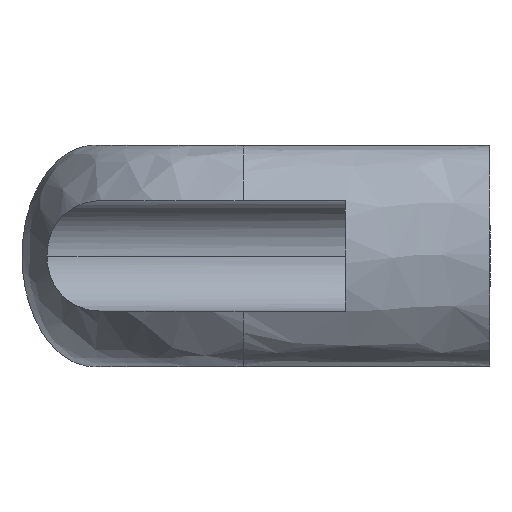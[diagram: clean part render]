
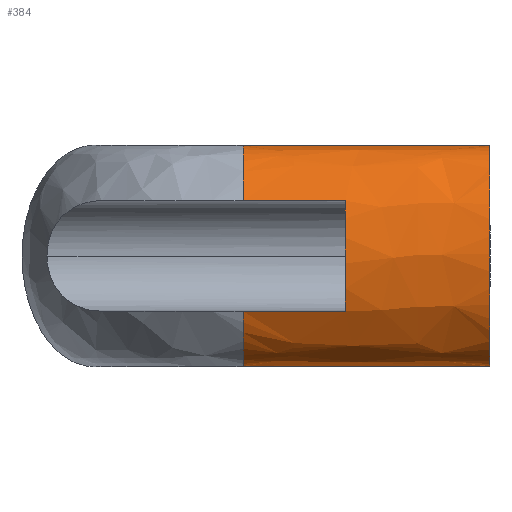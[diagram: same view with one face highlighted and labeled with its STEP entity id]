
A CAD part, left-side view. The second image highlights one B-rep face of the part: STEP entity #384.
In plain terms, the highlighted free-form (B-spline) face has degree [3, 1] with [4, 2] control points.
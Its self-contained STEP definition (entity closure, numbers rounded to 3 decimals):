
#1 = CARTESIAN_POINT ( 'NONE',  ( -74., -17.5, -13. ) ) ;
#37 = CARTESIAN_POINT ( 'NONE',  ( -74., -17.5, 13. ) ) ;
#78 = LINE ( 'NONE', #238, #343 ) ;
#103 =( BOUNDED_CURVE ( )  B_SPLINE_CURVE ( 3, ( #709, #1021, #863, #858 ),
 .UNSPECIFIED., .F., .F. ) 
 B_SPLINE_CURVE_WITH_KNOTS ( ( 4, 4 ),
 ( 1.047, 2.094 ),
 .UNSPECIFIED. ) 
 CURVE ( )  GEOMETRIC_REPRESENTATION_ITEM ( )  RATIONAL_B_SPLINE_CURVE ( ( 1., 0.911, 0.911, 1. ) ) 
 REPRESENTATION_ITEM ( '' )  );
#137 = ORIENTED_EDGE ( 'NONE', *, *, #975, .F. ) ;
#138 = CARTESIAN_POINT ( 'NONE',  ( -81.361, -29.5, 6.5 ) ) ;
#161 = DIRECTION ( 'NONE',  ( 0., -1., 0. ) ) ;
#170 = LINE ( 'NONE', #1116, #884 ) ;
#190 = CARTESIAN_POINT ( 'NONE',  ( -74., -46.5, 13. ) ) ;
#192 = CARTESIAN_POINT ( 'NONE',  ( -91., -46.5, 13. ) ) ;
#202 = CARTESIAN_POINT ( 'NONE',  ( -74., -46.5, -13. ) ) ;
#215 = CARTESIAN_POINT ( 'NONE',  ( -74., -17.5, -13. ) ) ;
#217 = VERTEX_POINT ( 'NONE', #529 ) ;
#221 = ORIENTED_EDGE ( 'NONE', *, *, #1123, .T. ) ;
#226 = CARTESIAN_POINT ( 'NONE',  ( -81.361, -17.5, 6.5 ) ) ;
#236 = DIRECTION ( 'NONE',  ( 0., 1., 0. ) ) ;
#238 = CARTESIAN_POINT ( 'NONE',  ( -81.361, -17.5, -6.5 ) ) ;
#255 = CARTESIAN_POINT ( 'NONE',  ( -91., -46.5, -13. ) ) ;
#256 =( BOUNDED_SURFACE ( )  B_SPLINE_SURFACE ( 3, 1, ( 
 ( #215, #648 ),
 ( #949, #1020 ),
 ( #1114, #1122 ),
 ( #1086, #1136 ) ),
 .UNSPECIFIED., .F., .F., .T. ) 
 B_SPLINE_SURFACE_WITH_KNOTS ( ( 4, 4 ),
 ( 2, 2 ),
 ( 0., 1. ),
 ( 0., 1. ),
 .UNSPECIFIED. ) 
 GEOMETRIC_REPRESENTATION_ITEM ( )  RATIONAL_B_SPLINE_SURFACE ( (
 ( 1., 1.),
 ( 0.333, 0.333),
 ( 0.333, 0.333),
 ( 1., 1.) ) ) 
 REPRESENTATION_ITEM ( '' )  SURFACE ( )  );
#274 = EDGE_CURVE ( 'NONE', #873, #750, #904, .T. ) ;
#290 = ORIENTED_EDGE ( 'NONE', *, *, #479, .F. ) ;
#330 = CARTESIAN_POINT ( 'NONE',  ( -74., -17.5, -13. ) ) ;
#343 = VECTOR ( 'NONE', #236, 1000. ) ;
#345 =( BOUNDED_CURVE ( )  B_SPLINE_CURVE ( 3, ( #202, #255, #192, #190 ),
 .UNSPECIFIED., .F., .F. ) 
 B_SPLINE_CURVE_WITH_KNOTS ( ( 4, 4 ),
 ( 0., 3.142 ),
 .UNSPECIFIED. ) 
 CURVE ( )  GEOMETRIC_REPRESENTATION_ITEM ( )  RATIONAL_B_SPLINE_CURVE ( ( 1., 0.333, 0.333, 1. ) ) 
 REPRESENTATION_ITEM ( '' )  );
#355 = CARTESIAN_POINT ( 'NONE',  ( -81.361, -17.5, -6.5 ) ) ;
#368 = CARTESIAN_POINT ( 'NONE',  ( -74., -46.5, -13. ) ) ;
#372 = EDGE_LOOP ( 'NONE', ( #137, #635, #704, #986, #723, #290, #976, #221 ) ) ;
#384 = ADVANCED_FACE ( 'NONE', ( #814 ), #256, .F. ) ;
#426 = VECTOR ( 'NONE', #161, 1000. ) ;
#468 = LINE ( 'NONE', #330, #426 ) ;
#479 = EDGE_CURVE ( 'NONE', #740, #559, #900, .T. ) ;
#491 = VERTEX_POINT ( 'NONE', #1090 ) ;
#500 = CARTESIAN_POINT ( 'NONE',  ( -74., -17.5, 13. ) ) ;
#509 = CARTESIAN_POINT ( 'NONE',  ( -79.806, -17.5, 10.621 ) ) ;
#513 = CARTESIAN_POINT ( 'NONE',  ( -77.111, -17.5, 13. ) ) ;
#529 = CARTESIAN_POINT ( 'NONE',  ( -74., -46.5, 13. ) ) ;
#559 = VERTEX_POINT ( 'NONE', #355 ) ;
#564 = VERTEX_POINT ( 'NONE', #368 ) ;
#606 = CARTESIAN_POINT ( 'NONE',  ( -74., -17.5, -13. ) ) ;
#635 = ORIENTED_EDGE ( 'NONE', *, *, #274, .F. ) ;
#640 = VECTOR ( 'NONE', #867, 1000. ) ;
#648 = CARTESIAN_POINT ( 'NONE',  ( -74., -46.5, -13. ) ) ;
#704 = ORIENTED_EDGE ( 'NONE', *, *, #996, .T. ) ;
#709 = CARTESIAN_POINT ( 'NONE',  ( -81.361, -29.5, -6.5 ) ) ;
#723 = ORIENTED_EDGE ( 'NONE', *, *, #1096, .T. ) ;
#740 = VERTEX_POINT ( 'NONE', #606 ) ;
#750 = VERTEX_POINT ( 'NONE', #37 ) ;
#766 = CARTESIAN_POINT ( 'NONE',  ( -79.806, -17.5, -10.621 ) ) ;
#802 = VERTEX_POINT ( 'NONE', #138 ) ;
#814 = FACE_OUTER_BOUND ( 'NONE', #372, .T. ) ;
#858 = CARTESIAN_POINT ( 'NONE',  ( -81.361, -29.5, 6.5 ) ) ;
#863 = CARTESIAN_POINT ( 'NONE',  ( -82.917, -29.5, 2.379 ) ) ;
#867 = DIRECTION ( 'NONE',  ( 0., -1., 0. ) ) ;
#873 = VERTEX_POINT ( 'NONE', #226 ) ;
#884 = VECTOR ( 'NONE', #1009, 1000. ) ;
#897 = LINE ( 'NONE', #926, #640 ) ;
#900 =( BOUNDED_CURVE ( )  B_SPLINE_CURVE ( 3, ( #1, #1022, #766, #979 ),
 .UNSPECIFIED., .F., .T. ) 
 B_SPLINE_CURVE_WITH_KNOTS ( ( 4, 4 ),
 ( 0., 1.047 ),
 .UNSPECIFIED. ) 
 CURVE ( )  GEOMETRIC_REPRESENTATION_ITEM ( )  RATIONAL_B_SPLINE_CURVE ( ( 1., 0.911, 0.911, 1. ) ) 
 REPRESENTATION_ITEM ( '' )  );
#904 =( BOUNDED_CURVE ( )  B_SPLINE_CURVE ( 3, ( #1087, #509, #513, #500 ),
 .UNSPECIFIED., .F., .F. ) 
 B_SPLINE_CURVE_WITH_KNOTS ( ( 4, 4 ),
 ( 2.094, 3.142 ),
 .UNSPECIFIED. ) 
 CURVE ( )  GEOMETRIC_REPRESENTATION_ITEM ( )  RATIONAL_B_SPLINE_CURVE ( ( 1., 0.911, 0.911, 1. ) ) 
 REPRESENTATION_ITEM ( '' )  );
#926 = CARTESIAN_POINT ( 'NONE',  ( -74., -17.5, 13. ) ) ;
#949 = CARTESIAN_POINT ( 'NONE',  ( -91., -17.5, -13. ) ) ;
#967 = EDGE_CURVE ( 'NONE', #491, #802, #103, .T. ) ;
#975 = EDGE_CURVE ( 'NONE', #750, #217, #897, .T. ) ;
#976 = ORIENTED_EDGE ( 'NONE', *, *, #1137, .T. ) ;
#979 = CARTESIAN_POINT ( 'NONE',  ( -81.361, -17.5, -6.5 ) ) ;
#986 = ORIENTED_EDGE ( 'NONE', *, *, #967, .F. ) ;
#996 = EDGE_CURVE ( 'NONE', #873, #802, #170, .T. ) ;
#1009 = DIRECTION ( 'NONE',  ( 0., -1., 0. ) ) ;
#1020 = CARTESIAN_POINT ( 'NONE',  ( -91., -46.5, -13. ) ) ;
#1021 = CARTESIAN_POINT ( 'NONE',  ( -82.917, -29.5, -2.379 ) ) ;
#1022 = CARTESIAN_POINT ( 'NONE',  ( -77.111, -17.5, -13. ) ) ;
#1086 = CARTESIAN_POINT ( 'NONE',  ( -74., -17.5, 13. ) ) ;
#1087 = CARTESIAN_POINT ( 'NONE',  ( -81.361, -17.5, 6.5 ) ) ;
#1090 = CARTESIAN_POINT ( 'NONE',  ( -81.361, -29.5, -6.5 ) ) ;
#1096 = EDGE_CURVE ( 'NONE', #491, #559, #78, .T. ) ;
#1114 = CARTESIAN_POINT ( 'NONE',  ( -91., -17.5, 13. ) ) ;
#1116 = CARTESIAN_POINT ( 'NONE',  ( -81.361, -17.5, 6.5 ) ) ;
#1122 = CARTESIAN_POINT ( 'NONE',  ( -91., -46.5, 13. ) ) ;
#1123 = EDGE_CURVE ( 'NONE', #564, #217, #345, .T. ) ;
#1136 = CARTESIAN_POINT ( 'NONE',  ( -74., -46.5, 13. ) ) ;
#1137 = EDGE_CURVE ( 'NONE', #740, #564, #468, .T. ) ;
